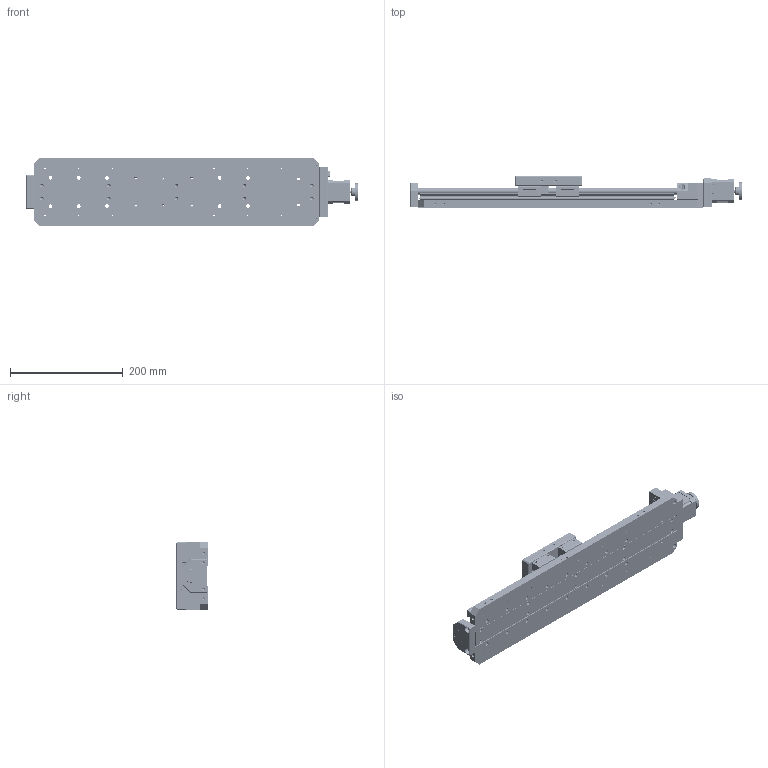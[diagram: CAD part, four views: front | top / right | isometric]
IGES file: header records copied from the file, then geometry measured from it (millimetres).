
Start section: SolidWorks IGES file using analytic representation for surfaces
Global section: file name: C:\Users\dubin\Desktop\9.18\PT-GD140G(300)\PT-GD140G(300).IGS; native system: SolidWorks 2017; preprocessor: SolidWorks 2017; author: PDV; date: 220918.114841; units: millimetre
Bounding box: 589 x 55 x 120 mm (x, y, z)
Surface area: 438090.6 mm2 (no closed solid volume)
Topology: 0 solids, 0 shells, 2728 faces, 39156 edges, 38888 vertices
Faces by surface type: bspline 1460, revolution 1268
